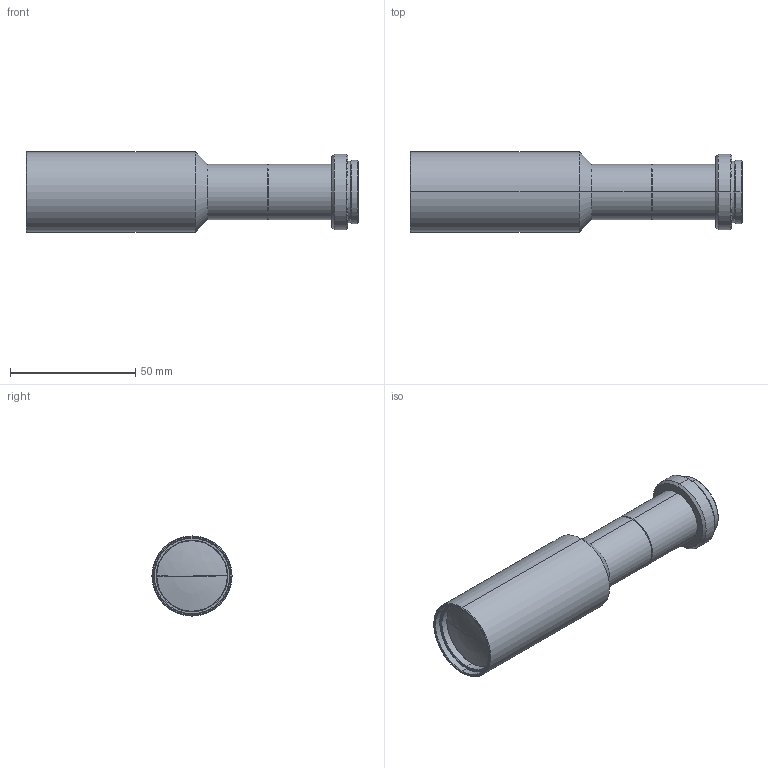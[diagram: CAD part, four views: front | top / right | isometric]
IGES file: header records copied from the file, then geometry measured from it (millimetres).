
Start section: SolidWorks IGES file using analytic representation for surfaces
Global section: file name: C:\Documents and Settings\Tsuji_vst\My Documents\図面\_3D\VS-TCH05-110.IGS,1; native system: 5HSolidWorks 2012; preprocessor: SolidWorks 2012; author: Tsuji_vst; date: 130911.155121; units: millimetre
Bounding box: 132.5 x 32 x 32 mm (x, y, z)
Surface area: 15589.4 mm2 (no closed solid volume)
Topology: 0 solids, 0 shells, 77 faces, 1048 edges, 1046 vertices
Faces by surface type: revolution 68, bspline 9
